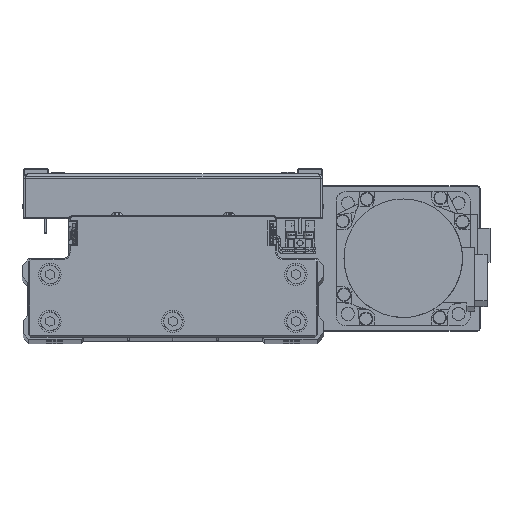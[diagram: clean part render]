
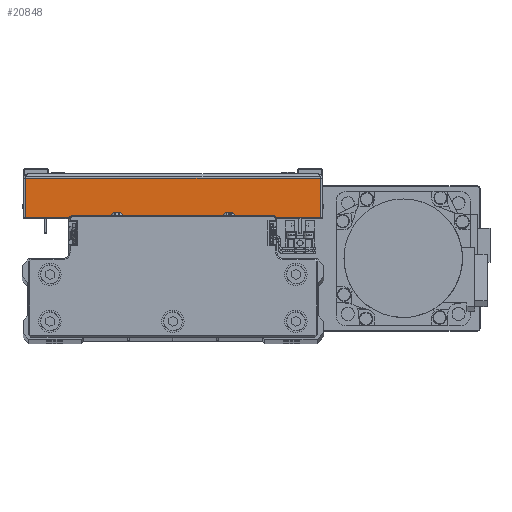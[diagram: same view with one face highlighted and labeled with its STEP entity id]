
A CAD part, top view. The second image highlights one B-rep face of the part: STEP entity #20848.
In plain terms, the highlighted planar face has unit normal (0, 0, 1) as drawn and (1, 0, 0) by its records, which use the part's own axes.
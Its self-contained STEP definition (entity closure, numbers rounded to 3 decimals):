
#1278 = EDGE_CURVE ( 'NONE', #7171, #2735, #1639, .T. ) ;
#1639 = LINE ( 'NONE', #15366, #32603 ) ;
#1704 = VECTOR ( 'NONE', #10783, 1000. ) ;
#2735 = VERTEX_POINT ( 'NONE', #25468 ) ;
#5942 = CARTESIAN_POINT ( 'NONE',  ( 100., 0., 65.929 ) ) ;
#6161 = CARTESIAN_POINT ( 'NONE',  ( 100., 0., 0. ) ) ;
#6830 = VERTEX_POINT ( 'NONE', #25533 ) ;
#7171 = VERTEX_POINT ( 'NONE', #44044 ) ;
#10783 = DIRECTION ( 'NONE',  ( 0., 0., 1. ) ) ;
#11074 = LINE ( 'NONE', #24813, #17274 ) ;
#15366 = CARTESIAN_POINT ( 'NONE',  ( 100., 0., -65.929 ) ) ;
#17274 = VECTOR ( 'NONE', #38576, 1000. ) ;
#19663 = DIRECTION ( 'NONE',  ( 0., 1., 0. ) ) ;
#19884 = DIRECTION ( 'NONE',  ( -1., 0., 0. ) ) ;
#20848 = ADVANCED_FACE ( 'NONE', ( #23267 ), #37014, .F. ) ;
#23267 = FACE_OUTER_BOUND ( 'NONE', #42199, .T. ) ;
#24813 = CARTESIAN_POINT ( 'NONE',  ( 100., 1., 67. ) ) ;
#25147 = AXIS2_PLACEMENT_3D ( 'NONE', #6161, #19884, #33632 ) ;
#25468 = CARTESIAN_POINT ( 'NONE',  ( 100., 18.5, -65.929 ) ) ;
#25533 = CARTESIAN_POINT ( 'NONE',  ( 100., 1., 65.929 ) ) ;
#26566 = ORIENTED_EDGE ( 'NONE', *, *, #37974, .F. ) ;
#27913 = LINE ( 'NONE', #41656, #1704 ) ;
#29131 = DIRECTION ( 'NONE',  ( 0., 1., 0. ) ) ;
#32060 = ORIENTED_EDGE ( 'NONE', *, *, #1278, .T. ) ;
#32603 = VECTOR ( 'NONE', #29131, 1000. ) ;
#33420 = EDGE_CURVE ( 'NONE', #2735, #43351, #27913, .T. ) ;
#33632 = DIRECTION ( 'NONE',  ( 0., -1., 0. ) ) ;
#35067 = VECTOR ( 'NONE', #19663, 1000. ) ;
#35100 = ORIENTED_EDGE ( 'NONE', *, *, #42230, .F. ) ;
#36803 = LINE ( 'NONE', #5942, #35067 ) ;
#37014 = PLANE ( 'NONE',  #25147 ) ;
#37974 = EDGE_CURVE ( 'NONE', #7171, #6830, #11074, .T. ) ;
#38493 = CARTESIAN_POINT ( 'NONE',  ( 100., 18.5, 65.929 ) ) ;
#38576 = DIRECTION ( 'NONE',  ( 0., 0., 1. ) ) ;
#40587 = ORIENTED_EDGE ( 'NONE', *, *, #33420, .T. ) ;
#41656 = CARTESIAN_POINT ( 'NONE',  ( 100., 18.5, 0. ) ) ;
#42199 = EDGE_LOOP ( 'NONE', ( #26566, #32060, #40587, #35100 ) ) ;
#42230 = EDGE_CURVE ( 'NONE', #6830, #43351, #36803, .T. ) ;
#43351 = VERTEX_POINT ( 'NONE', #38493 ) ;
#44044 = CARTESIAN_POINT ( 'NONE',  ( 100., 1., -65.929 ) ) ;
